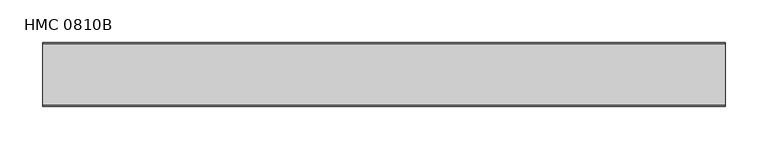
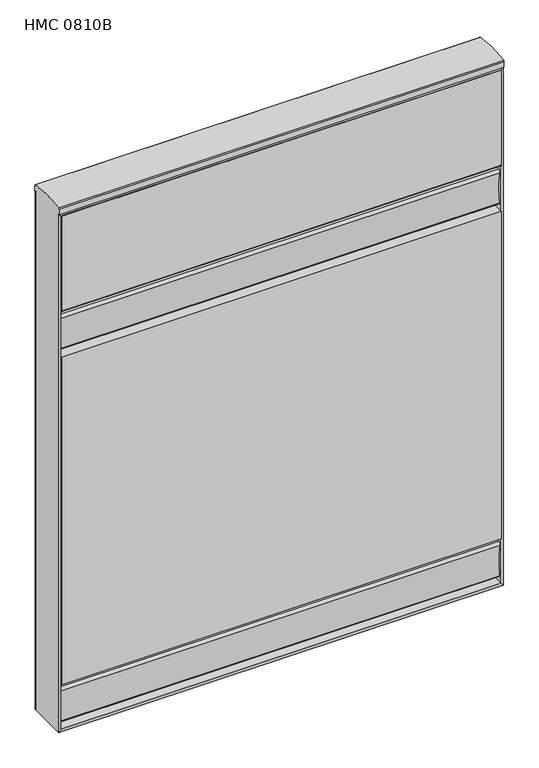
"""IFC4 building model written with IfcOpenShell, lengths in millimetres: furniture geometry, Mobiliário_MobiliáriodeEscritório_LinhaHabitat_PainelHabitatCego-MelaminaBasculante1Lado_Marelli : HMC 0810B."""

from ifc_helpers import new_model, si_unit, point, frame, frame_2d, origin, place, context, project, spatial, polyline, circle_curve, ellipse_curve, trimmed, segment, composite_curve, outline, extrude, source, transform, mapped, element, save
from ifc_brep_helpers import plane_surface, cylinder_surface, advanced_brep


def hmc_0810b_49ee08f0(model_context):
    return source(origin(), model_context, "Body", "SolidModel", [
        extrude(outline(composite_curve([segment(polyline([(55.0, 90.0), (55.0, 80.0), (65.980067, 80.0)]), True, "CONTINUOUS"), segment(trimmed(circle_curve(frame_2d((65.980067, 75.980067)), 4.019933), [point((65.980067, 80.0))], [point((69.831007, 74.8267575))], False, "CARTESIAN"), True, "CONTINUOUS"), segment(trimmed(circle_curve(frame_2d((200.7096213, 43.9493843)), 134.4716471), [point((69.831007, 74.8267575))], [point((68.9861321, 16.9022723))], True, "CARTESIAN"), True, "CONTINUOUS"), segment(trimmed(circle_curve(frame_2d((67.0270055, 16.5)), 2.0), [point((68.9861321, 16.9022723))], [point((67.0270055, 14.5))], False, "CARTESIAN"), True, "CONTINUOUS"), segment(polyline([(67.0270055, 14.5), (55.0, 14.5), (55.0, 4.5), (20.0, 4.5), (20.0, 14.5), (7.9729945, 14.5)]), True, "CONTINUOUS"), segment(trimmed(circle_curve(frame_2d((7.9729945, 16.5)), 2.0), [point((7.9729945, 14.5))], [point((6.0138679, 16.9022723))], False, "CARTESIAN"), True, "CONTINUOUS"), segment(trimmed(circle_curve(frame_2d((-125.7096213, 43.9493843)), 134.4716471), [point((6.0138679, 16.9022723))], [point((5.168993, 74.8267575))], True, "CARTESIAN"), True, "CONTINUOUS"), segment(trimmed(circle_curve(frame_2d((9.019933, 75.980067)), 4.019933), [point((5.168993, 74.8267575))], [point((9.019933, 80.0))], False, "CARTESIAN"), True, "CONTINUOUS"), segment(polyline([(9.019933, 80.0), (20.0, 80.0), (20.0, 90.0), (55.0, 90.0)]), True, "CONTINUOUS")], self_intersect=False)), frame((4.5, 0.0, 0.0), z_axis=(1.0, 0.0, 0.0), x_axis=(0.0, 1.0, 0.0)), (0.0, 0.0, 1.0), 791.0),
        advanced_brep(
        [(0.0, 0.0, 984.4135569), (0.0, 0.0, 994.184829), (0.0, 1.4147018, 996.2946718), (0.0, 73.7415241, 996.2666026), (0.0, 75.0, 994.2721511), (0.0, 75.0, 984.4135569), (0.0, 72.75, 984.4135569), (0.0, 72.75, 0.0), (0.0, 2.25, 0.0), (0.0, 2.25, 984.4135569), (800.0, 75.0, 984.4135569), (800.0, 75.0, 994.2721511), (800.0, 73.7415241, 996.2666026), (800.0, 1.4147018, 996.2946718), (800.0, 0.0, 994.184829), (800.0, 0.0, 984.4135569), (800.0, 2.25, 984.4135569), (800.0, 2.25, 0.0), (800.0, 72.75, 0.0), (800.0, 72.75, 984.4135569), (4.5, 72.75, 4.5), (795.5, 72.75, 4.5), (795.5, 2.25, 4.5), (4.5, 2.25, 4.5), (795.5, 72.75, 979.9135569), (795.5, 2.25, 979.9135569), (4.5, 72.75, 979.9135569), (4.5, 2.25, 979.9135569)],
        [
            (0, 1),
            (1, 2, circle_curve(frame((0.0, 2.2806283, 994.184829), z_axis=(-1.0, 0.0, 0.0), x_axis=(0.0, 1.0, 0.0)), 2.2806283)),
            (2, 3, circle_curve(frame((0.0, 37.5106051, 822.3310283), z_axis=(-1.0, 0.0, 0.0), x_axis=(0.0, 1.0, 0.0)), 177.6689717)),
            (3, 4, circle_curve(frame((0.0, 72.7903437, 994.2721511), z_axis=(-1.0, 0.0, 0.0), x_axis=(0.0, 1.0, 0.0)), 2.2096563)),
            (4, 5),
            (5, 6),
            (6, 7),
            (7, 8),
            (8, 9),
            (9, 0),
            (10, 11),
            (11, 12, circle_curve(frame((800.0, 72.7903437, 994.2721511), z_axis=(1.0, 0.0, 0.0), x_axis=(0.0, 1.0, 0.0)), 2.2096563)),
            (12, 13, circle_curve(frame((800.0, 37.5106051, 822.3310283), z_axis=(1.0, 0.0, 0.0), x_axis=(0.0, 1.0, 0.0)), 177.6689717)),
            (13, 14, circle_curve(frame((800.0, 2.2806283, 994.184829), z_axis=(1.0, 0.0, 0.0), x_axis=(0.0, 1.0, 0.0)), 2.2806283)),
            (14, 15),
            (15, 16),
            (16, 17),
            (17, 18),
            (18, 19),
            (19, 10),
            (4, 11),
            (10, 5),
            (3, 12),
            (2, 13),
            (1, 14),
            (0, 15),
            (19, 6),
            (9, 16),
            (7, 20, ellipse_curve(frame((2.25, 72.75, 2.25), z_axis=(0.7071067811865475, 0.0, -0.7071067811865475), x_axis=(-0.7071067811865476, 0.0, -0.7071067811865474)), 3.1819805, 2.25)),
            (20, 21),
            (21, 18, ellipse_curve(frame((797.75, 72.75, 2.25), z_axis=(-0.7071067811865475, 0.0, -0.7071067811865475), x_axis=(-0.7071067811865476, 0.0, 0.7071067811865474)), 3.1819805, 2.25)),
            (18, 7),
            (17, 8),
            (17, 22, ellipse_curve(frame((797.75, 2.25, 2.25), z_axis=(-0.7071067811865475, 0.0, -0.7071067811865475), x_axis=(-0.7071067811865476, 0.0, 0.7071067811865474)), 3.1819805, 2.25)),
            (22, 23),
            (23, 8, ellipse_curve(frame((2.25, 2.25, 2.25), z_axis=(0.7071067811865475, 0.0, -0.7071067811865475), x_axis=(-0.7071067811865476, 0.0, -0.7071067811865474)), 3.1819805, 2.25)),
            (20, 23),
            (22, 21),
            (21, 24),
            (24, 19, ellipse_curve(frame((797.75, 72.75, 982.1635569), z_axis=(0.7071067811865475, 0.0, -0.7071067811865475), x_axis=(-0.7071067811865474, 0.0, -0.7071067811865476)), 3.1819805, 2.25)),
            (16, 25, ellipse_curve(frame((797.75, 2.25, 982.1635569), z_axis=(0.7071067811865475, 0.0, -0.7071067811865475), x_axis=(-0.7071067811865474, 0.0, -0.7071067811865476)), 3.1819805, 2.25)),
            (25, 22),
            (25, 24),
            (24, 26),
            (26, 6, ellipse_curve(frame((2.25, 72.75, 982.1635569), z_axis=(0.7071067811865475, 0.0, 0.7071067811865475), x_axis=(0.7071067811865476, 0.0, -0.7071067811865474)), 3.1819805, 2.25)),
            (9, 27, ellipse_curve(frame((2.25, 2.25, 982.1635569), z_axis=(0.7071067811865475, 0.0, 0.7071067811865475), x_axis=(0.7071067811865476, 0.0, -0.7071067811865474)), 3.1819805, 2.25)),
            (27, 25),
            (27, 26),
            (26, 20),
            (23, 27),
        ],
        [
            plane_surface(frame((0.0, 75.0, 994.2721511), z_axis=(-1.0, 0.0, 0.0), x_axis=(0.0, 0.0, -1.0))),
            plane_surface(frame((800.0, 75.0, 994.2721511), z_axis=(1.0, 0.0, 0.0), x_axis=(0.0, 0.0, 1.0))),
            plane_surface(frame((800.0, 75.0, 984.4135569), z_axis=(0.0, 1.0, 0.0), x_axis=(-1.0, 0.0, 0.0))),
            cylinder_surface(frame((0.0, 72.7903437, 994.2721511), z_axis=(1.0, 0.0, 0.0), x_axis=(0.0, 1.0, 0.0)), 2.2096563),
            cylinder_surface(frame((0.0, 37.5106051, 822.3310283), z_axis=(1.0, 0.0, 0.0), x_axis=(0.0, 1.0, 0.0)), 177.6689717),
            cylinder_surface(frame((0.0, 2.2806283, 994.184829), z_axis=(1.0, 0.0, 0.0), x_axis=(0.0, 1.0, 0.0)), 2.2806283),
            plane_surface(frame((800.0, 0.0, 994.184829), z_axis=(0.0, -1.0, 0.0), x_axis=(-1.0, 0.0, 0.0))),
            plane_surface(frame((800.0, 0.0, 984.4135569), z_axis=(0.0, 0.0, -1.0), x_axis=(-1.0, 0.0, 0.0))),
            cylinder_surface(frame((0.0, 72.75, 2.25), z_axis=(-1.0, 0.0, 0.0), x_axis=(0.0, -1.0, 0.0)), 2.25),
            plane_surface(frame((0.0, 72.75, 0.0), z_axis=(0.0, 0.0, -1.0), x_axis=(1.0, 0.0, 0.0))),
            cylinder_surface(frame((0.0, 2.25, 2.25), z_axis=(-1.0, 0.0, 0.0), x_axis=(0.0, -1.0, 0.0)), 2.25),
            plane_surface(frame((4.5, 2.25, 4.5), z_axis=(0.0, 0.0, 1.0), x_axis=(1.0, 0.0, 0.0))),
            cylinder_surface(frame((797.75, 72.75, 0.0), z_axis=(0.0, 0.0, -1.0), x_axis=(0.0, -1.0, 0.0)), 2.25),
            cylinder_surface(frame((797.75, 2.25, 0.0), z_axis=(0.0, 0.0, -1.0), x_axis=(0.0, -1.0, 0.0)), 2.25),
            plane_surface(frame((795.5, 2.25, 4.5), z_axis=(-1.0, 0.0, 0.0), x_axis=(0.0, 0.0, 1.0))),
            cylinder_surface(frame((800.0, 72.75, 982.1635569), z_axis=(1.0, 0.0, 0.0), x_axis=(0.0, -1.0, 0.0)), 2.25),
            cylinder_surface(frame((800.0, 2.25, 982.1635569), z_axis=(1.0, 0.0, 0.0), x_axis=(0.0, -1.0, 0.0)), 2.25),
            plane_surface(frame((795.5, 2.25, 979.9135569), z_axis=(0.0, 0.0, -1.0), x_axis=(-1.0, 0.0, 0.0))),
            cylinder_surface(frame((2.25, 72.75, 984.4135569), z_axis=(0.0, 0.0, 1.0), x_axis=(0.0, -1.0, 0.0)), 2.25),
            cylinder_surface(frame((2.25, 2.25, 984.4135569), z_axis=(0.0, 0.0, 1.0), x_axis=(0.0, -1.0, 0.0)), 2.25),
            plane_surface(frame((4.5, 2.25, 979.9135569), z_axis=(1.0, 0.0, 0.0), x_axis=(0.0, 0.0, -1.0))),
        ],
        [
            (0, [[1, 2, 3, 4, 5, 6, 7, 8, 9, 10]]),
            (1, [[11, 12, 13, 14, 15, 16, 17, 18, 19, 20]]),
            (2, [[-5, 21, -11, 22]]),
            (3, [[-4, 23, -12, -21]]),
            (4, [[-3, 24, -13, -23]]),
            (5, [[-2, 25, -14, -24]]),
            (6, [[-1, 26, -15, -25]]),
            (7, [[-22, -20, 27, -6]]),
            (7, [[-26, -10, 28, -16]]),
            (8, [[29, 30, 31, 32]]),
            (9, [[-32, -18, 33, -8]]),
            (10, [[-33, 34, 35, 36]]),
            (11, [[-30, 37, -35, 38]]),
            (12, [[-31, 39, 40, -19]]),
            (13, [[-34, -17, 41, 42]]),
            (14, [[-38, -42, 43, -39]]),
            (15, [[-40, 44, 45, -27]]),
            (16, [[-41, -28, 46, 47]]),
            (17, [[-43, -47, 48, -44]]),
            (18, [[-29, -7, -45, 49]]),
            (19, [[-36, 50, -46, -9]]),
            (20, [[-37, -49, -48, -50]]),
        ],
    ),
        extrude(outline(composite_curve([segment(polyline([(55.0, 797.5), (55.0, 787.5), (65.980067, 787.5)]), True, "CONTINUOUS"), segment(trimmed(circle_curve(frame_2d((65.980067, 783.480067)), 4.019933), [point((65.980067, 787.5))], [point((69.831007, 782.3267575))], False, "CARTESIAN"), True, "CONTINUOUS"), segment(trimmed(circle_curve(frame_2d((200.7096213, 751.4493843)), 134.4716471), [point((69.831007, 782.3267575))], [point((68.9861321, 724.4022723))], True, "CARTESIAN"), True, "CONTINUOUS"), segment(trimmed(circle_curve(frame_2d((67.0270055, 724.0)), 2.0), [point((68.9861321, 724.4022723))], [point((67.0270055, 722.0))], False, "CARTESIAN"), True, "CONTINUOUS"), segment(polyline([(67.0270055, 722.0), (55.0, 722.0), (55.0, 712.0), (20.0, 712.0), (20.0, 722.0), (7.9729945, 722.0)]), True, "CONTINUOUS"), segment(trimmed(circle_curve(frame_2d((7.9729945, 724.0)), 2.0), [point((7.9729945, 722.0))], [point((6.0138679, 724.4022723))], False, "CARTESIAN"), True, "CONTINUOUS"), segment(trimmed(circle_curve(frame_2d((-125.7096213, 751.4493843)), 134.4716471), [point((6.0138679, 724.4022723))], [point((5.168993, 782.3267575))], True, "CARTESIAN"), True, "CONTINUOUS"), segment(trimmed(circle_curve(frame_2d((9.019933, 783.480067)), 4.019933), [point((5.168993, 782.3267575))], [point((9.019933, 787.5))], False, "CARTESIAN"), True, "CONTINUOUS"), segment(polyline([(9.019933, 787.5), (20.0, 787.5), (20.0, 797.5), (55.0, 797.5)]), True, "CONTINUOUS")], self_intersect=False)), frame((4.5, 0.0, 0.0), z_axis=(1.0, 0.0, 0.0), x_axis=(0.0, 1.0, 0.0)), (0.0, 0.0, 1.0), 791.0),
        extrude(outline(composite_curve([segment(trimmed(circle_curve(frame_2d((2.25, 799.75)), 2.25), [point((2.25, 797.5))], [point((0.0, 799.75))], False, "CARTESIAN"), True, "CONTINUOUS"), segment(polyline([(0.0, 799.75), (0.0, 979.9135569), (75.0, 979.9135569), (75.0, 90.0), (0.0, 90.0), (0.0, 712.0), (69.9996678, 712.0), (69.9996678, 797.5), (2.25, 797.5)]), True, "CONTINUOUS")], self_intersect=False)), frame((4.5, 0.0, 0.0), z_axis=(1.0, 0.0, 0.0), x_axis=(0.0, 1.0, 0.0)), (0.0, 0.0, 1.0), 791.0),
    ])


if __name__ == "__main__":
    model = new_model("IFC4")
    model_context = context("Model", 3, world=origin())
    ifc_project = project(units=[si_unit("LENGTHUNIT", "METRE", prefix="MILLI")], contexts=[model_context])
    site = spatial("IfcSite", under=ifc_project)
    building = spatial("IfcBuilding", under=site)
    placement = place(None, origin())
    hmc_0810b_shape = hmc_0810b_49ee08f0(model_context)
    element("IfcFurniture", 1, ObjectType="Mobiliário_MobiliáriodeEscritório_LinhaHabitat_PainelHabitatCego-MelaminaBasculante1Lado_Marelli : HMC 0810B", at=placement, inside=building, context=model_context, shape_type="MappedRepresentation", body=[
        mapped(hmc_0810b_shape, transform((0.0, 0.0, 0.0), x_axis=(1.0, 0.0, 0.0), y_axis=(0.0, 1.0, 0.0), z_axis=(0.0, 0.0, 1.0))),
    ])
    save(model, "model.ifc")
